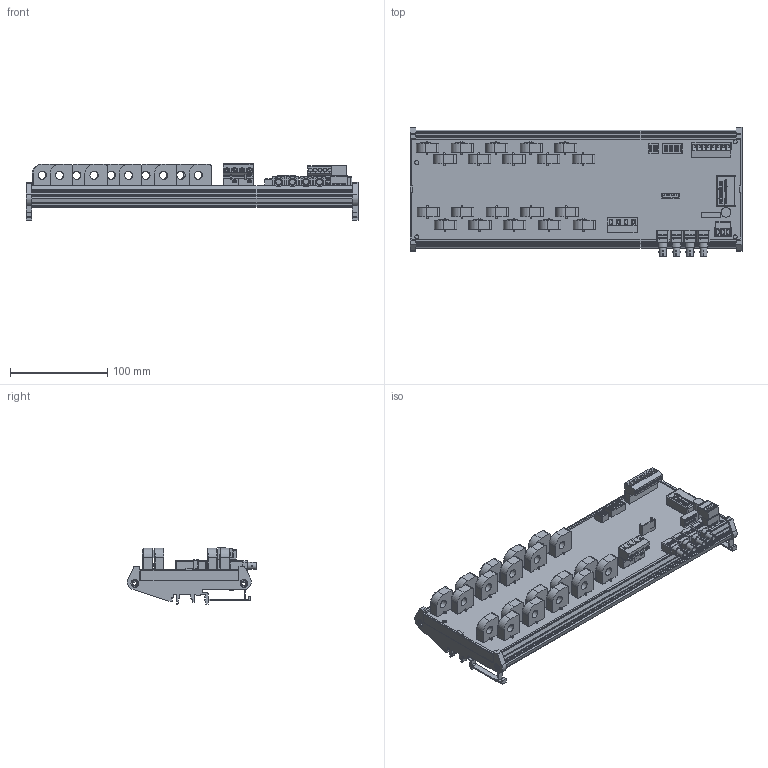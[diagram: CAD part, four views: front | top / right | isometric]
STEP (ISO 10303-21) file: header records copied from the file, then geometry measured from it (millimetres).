
FILE_DESCRIPTION(('FreeCAD Model'),'2;1');
FILE_NAME('C:/3D Files/Stringhe/ST0HS/ST0HS20xx DR/ST0HS20xx DR.step', '2023-01-13T09:19:57',('Author'),(''), 'Open CASCADE STEP processor 7.3','FreeCAD','Unknown');
FILE_SCHEMA(('AUTOMOTIVE_DESIGN { 1 0 10303 214 1 1 1 1 }'));
Length unit declared in the file: millimetre
Products named in the file (40): ST0HS20xx_DR; AmpModu_6P_M; DipSwitch8; DipSwitch4; IB2405LS-1W; WRB2403ZP-6WR003; ELNA_470_uF_35_V; Mstb_03P_F; Mstb_03Pc_M; SH04-7,62; PV02-7,62-V-Pa; PV02-7,62-V-Pb; Mstb_8P_F; Mstb_8Pc_M; CHK-LSP5S2L-BP-CH_01; CHK-LSP5S2L-BP-CH_02; CHK-LSP5S2L-BP-CH_03; CHK-LSP5S2L-BP-CH_04; CHK-LSP5S2L-BP-CH_05; CHK-LSP5S2L-BP-CH_06; CHK-LSP5S2L-BP-CH_07; CHK-LSP5S2L-BP-CH_08; CHK-LSP5S2L-BP-CH_09; CHK-LSP5S2L-BP-CH_10; CHK-LSP5S2L-BP-CH_11; CHK-LSP5S2L-BP-CH_12; CHK-LSP5S2L-BP-CH_13; CHK-LSP5S2L-BP-CH_14; CHK-LSP5S2L-BP-CH_15; CHK-LSP5S2L-BP-CH_16; CHK-LSP5S2L-BP-CH_17; CHK-LSP5S2L-BP-CH_18; CHK-LSP5S2L-BP-CH_19; CHK-LSP5S2L-BP-CH_20; Stampato_338_x_108; Profilo_342x128; HFBR-x41xTZ001; HFBR-x41xTZ002; HFBR-x41xTZ003; HFBR-x41xTZ004
Assembly tree (39 placements, depth 2):
  ST0HS20xx_DR
    AmpModu_6P_M
    DipSwitch8
    DipSwitch4
    IB2405LS-1W
    WRB2403ZP-6WR003
    ELNA_470_uF_35_V
    Mstb_03P_F
    Mstb_03Pc_M
    SH04-7,62
    PV02-7,62-V-Pa
    PV02-7,62-V-Pb
    Mstb_8P_F
    Mstb_8Pc_M
    CHK-LSP5S2L-BP-CH_01
    CHK-LSP5S2L-BP-CH_02
    CHK-LSP5S2L-BP-CH_03
    CHK-LSP5S2L-BP-CH_04
    CHK-LSP5S2L-BP-CH_05
    CHK-LSP5S2L-BP-CH_06
    CHK-LSP5S2L-BP-CH_07
    CHK-LSP5S2L-BP-CH_08
    CHK-LSP5S2L-BP-CH_09
    CHK-LSP5S2L-BP-CH_10
    CHK-LSP5S2L-BP-CH_11
    CHK-LSP5S2L-BP-CH_12
    CHK-LSP5S2L-BP-CH_13
    CHK-LSP5S2L-BP-CH_14
    CHK-LSP5S2L-BP-CH_15
    CHK-LSP5S2L-BP-CH_16
    CHK-LSP5S2L-BP-CH_17
    CHK-LSP5S2L-BP-CH_18
    CHK-LSP5S2L-BP-CH_19
    CHK-LSP5S2L-BP-CH_20
    Stampato_338_x_108
    Profilo_342x128
    HFBR-x41xTZ001
    HFBR-x41xTZ002
    HFBR-x41xTZ003
    HFBR-x41xTZ004
Bounding box: 342 x 133.1 x 57.69 mm (x, y, z)
Volume: 307356.4 mm3; surface area: 319704.4 mm2
Topology: 101 solids, 220 shells, 6322 faces, 24141 edges, 36810 vertices
Faces by surface type: plane 4814, cylinder 1112, torus 180, bspline 156, cone 41, sphere 16, extrusion 3
Full cylindrical faces by diameter (mm): 0.5 x36, 0.75 x36, 1 x18, 1.5 x8, 1.6 x7, 3.8 x4, 4 x19, 4.3 x4, 5.6 x4, 7.1 x4, 7.9 x4, 9.202 x4, 10 x1
Entity records: 525692 total; most frequent: CARTESIAN_POINT 133820, DIRECTION 68548, VECTOR 47454, LINE 47451, ORIENTED_EDGE 34075, PCURVE 34075, DEFINITIONAL_REPRESENTATION 34075, EDGE_CURVE 17924
